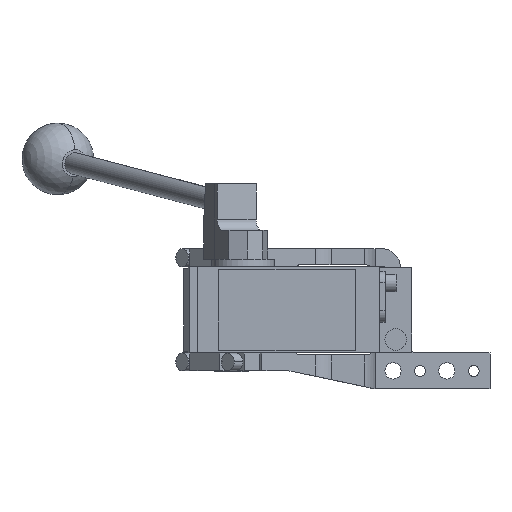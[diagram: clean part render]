
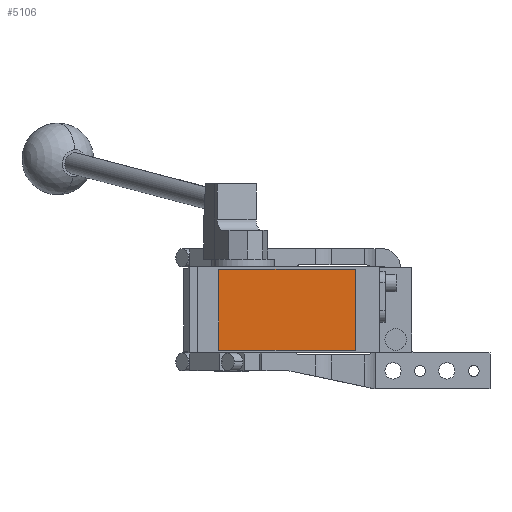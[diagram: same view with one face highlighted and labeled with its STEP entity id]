
A CAD part, front view. The second image highlights one B-rep face of the part: STEP entity #5106.
In plain terms, the highlighted planar face has unit normal (0, -1, 0).
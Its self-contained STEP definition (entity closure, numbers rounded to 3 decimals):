
#345 = EDGE_LOOP ( 'NONE', ( #8949, #11292, #7372, #11736 ) ) ;
#355 = CARTESIAN_POINT ( 'NONE',  ( 69., -280.5, 22.5 ) ) ;
#461 = VERTEX_POINT ( 'NONE', #5890 ) ;
#720 = CARTESIAN_POINT ( 'NONE',  ( 69., -280.5, 22.5 ) ) ;
#866 = VERTEX_POINT ( 'NONE', #8143 ) ;
#979 = CARTESIAN_POINT ( 'NONE',  ( -7., -280.5, 22.5 ) ) ;
#1396 = DIRECTION ( 'NONE',  ( 0., 0., -1. ) ) ;
#1569 = EDGE_CURVE ( 'NONE', #9832, #461, #12672, .T. ) ;
#2271 = VECTOR ( 'NONE', #7593, 1000. ) ;
#2460 = FACE_OUTER_BOUND ( 'NONE', #345, .T. ) ;
#3168 = AXIS2_PLACEMENT_3D ( 'NONE', #3684, #11715, #1396 ) ;
#3684 = CARTESIAN_POINT ( 'NONE',  ( 0., -280.5, 0. ) ) ;
#4076 = EDGE_CURVE ( 'NONE', #461, #866, #12869, .T. ) ;
#4352 = DIRECTION ( 'NONE',  ( 0., 0., -1. ) ) ;
#5106 = ADVANCED_FACE ( 'NONE', ( #2460 ), #13991, .T. ) ;
#5890 = CARTESIAN_POINT ( 'NONE',  ( -7., -280.5, -22.5 ) ) ;
#6410 = EDGE_CURVE ( 'NONE', #866, #9427, #14227, .T. ) ;
#7372 = ORIENTED_EDGE ( 'NONE', *, *, #6410, .T. ) ;
#7593 = DIRECTION ( 'NONE',  ( -1., 0., 0. ) ) ;
#7817 = CARTESIAN_POINT ( 'NONE',  ( -7., -280.5, 22.5 ) ) ;
#8143 = CARTESIAN_POINT ( 'NONE',  ( 69., -280.5, -22.5 ) ) ;
#8949 = ORIENTED_EDGE ( 'NONE', *, *, #1569, .T. ) ;
#9427 = VERTEX_POINT ( 'NONE', #720 ) ;
#9494 = DIRECTION ( 'NONE',  ( 1., 0., 0. ) ) ;
#9832 = VERTEX_POINT ( 'NONE', #979 ) ;
#10490 = EDGE_CURVE ( 'NONE', #9427, #9832, #12070, .T. ) ;
#10739 = VECTOR ( 'NONE', #9494, 1000. ) ;
#10894 = VECTOR ( 'NONE', #14855, 1000. ) ;
#11292 = ORIENTED_EDGE ( 'NONE', *, *, #4076, .T. ) ;
#11582 = CARTESIAN_POINT ( 'NONE',  ( -7., -280.5, -22.5 ) ) ;
#11680 = VECTOR ( 'NONE', #4352, 1000. ) ;
#11715 = DIRECTION ( 'NONE',  ( 0., -1., 0. ) ) ;
#11736 = ORIENTED_EDGE ( 'NONE', *, *, #10490, .T. ) ;
#12070 = LINE ( 'NONE', #12225, #2271 ) ;
#12225 = CARTESIAN_POINT ( 'NONE',  ( -7., -280.5, 22.5 ) ) ;
#12672 = LINE ( 'NONE', #7817, #11680 ) ;
#12869 = LINE ( 'NONE', #11582, #10739 ) ;
#13991 = PLANE ( 'NONE',  #3168 ) ;
#14227 = LINE ( 'NONE', #355, #10894 ) ;
#14855 = DIRECTION ( 'NONE',  ( 0., 0., 1. ) ) ;
